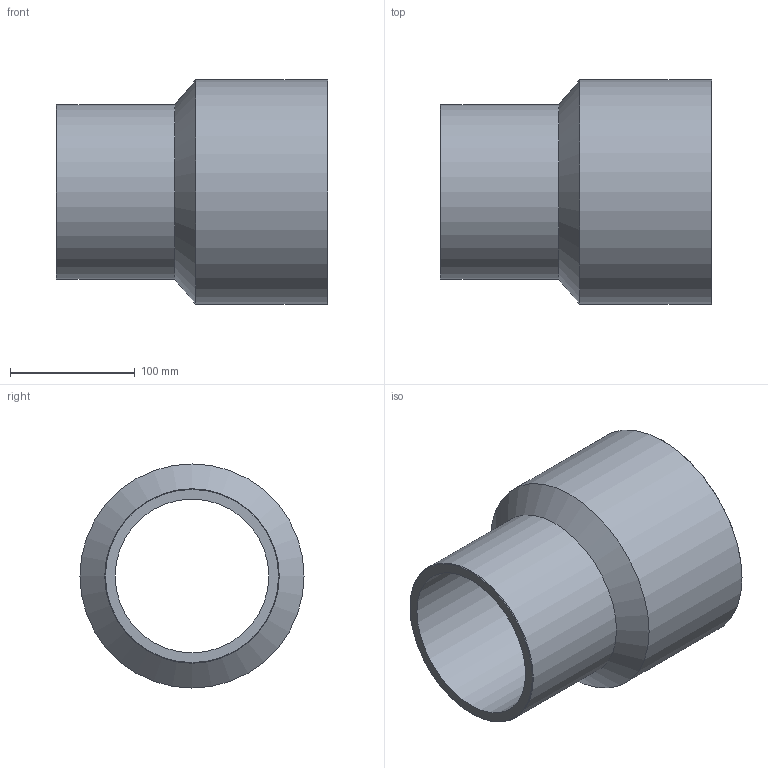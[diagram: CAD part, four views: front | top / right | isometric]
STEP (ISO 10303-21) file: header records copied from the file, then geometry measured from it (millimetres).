
FILE_DESCRIPTION(/* description */ ('Unknown'),/* implementation_level */ '2;1');
FILE_NAME(/* name */ 'RP180140B',/* time_stamp */ '2021-09-17T11:34:57+02:00',/* author */ ('Unknown'),/* organization */ ('Unknown'),/* preprocessor_version */ 'ST-DEVELOPER v16.7',/* originating_system */ 'Solid Edge',/* authorisation */ 'Unknown');
FILE_SCHEMA (('AUTOMOTIVE_DESIGN {1 0 10303 214 3 1 1}'));
Length unit declared in the file: millimetre
Products named in the file (1): RP180140B
Bounding box: 218 x 180 x 180 mm (x, y, z)
Volume: 1076938.2 mm3; surface area: 222763.1 mm2
Topology: 1 solids, 1 shells, 10 faces, 19 edges, 11 vertices
Faces by surface type: cylinder 4, cone 4, plane 2
Full cylindrical faces by diameter (mm): 123.4 x1, 140 x1, 158.6 x1, 180 x1
Entity records: 238 total; most frequent: DIRECTION 42, CARTESIAN_POINT 31, AXIS2_PLACEMENT_3D 21, ORIENTED_EDGE 20, EDGE_LOOP 20, FACE_BOUND 20, EDGE_CURVE 10, VERTEX_POINT 10
